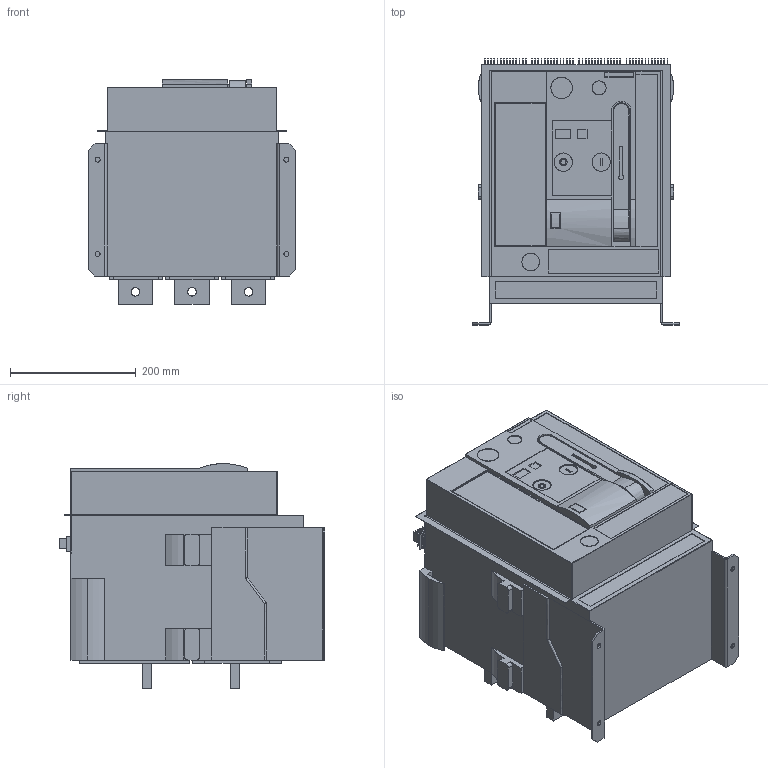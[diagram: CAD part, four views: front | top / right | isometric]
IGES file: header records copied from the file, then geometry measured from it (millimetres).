
Start section: SolidWorks IGES file using analytic representation for surfaces
Global section: file name: U:\14_RD\05_Technical_office\04_Office\Hrdinova\3D modely - IGES\Arion\ARION_WL1116-___32.IGS; native system: SolidWorks 2011; preprocessor: SolidWorks 2011; author: adhrja3; date: 170609.071447; units: millimetre
Bounding box: 328 x 422.4 x 357 mm (x, y, z)
Surface area: 975727.7 mm2 (no closed solid volume)
Topology: 0 solids, 0 shells, 1242 faces, 11283 edges, 11279 vertices
Faces by surface type: bspline 1006, revolution 236
